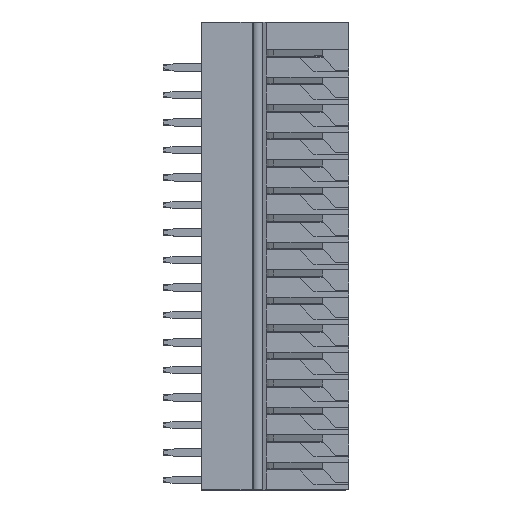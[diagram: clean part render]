
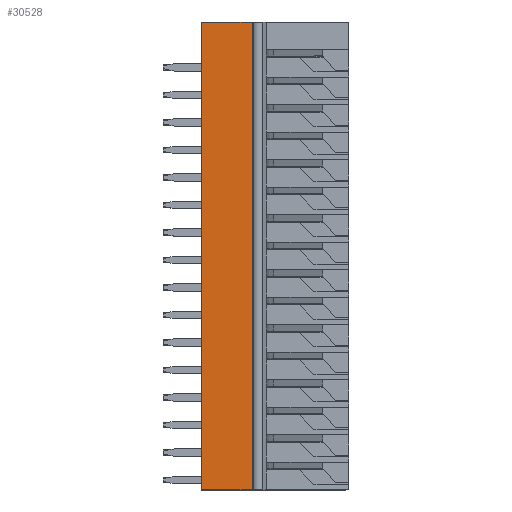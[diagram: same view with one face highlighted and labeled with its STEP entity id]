
A CAD part, top view. The second image highlights one B-rep face of the part: STEP entity #30528.
In plain terms, the highlighted planar face has unit normal (0, 0, 1).
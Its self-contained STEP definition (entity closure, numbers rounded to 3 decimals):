
#1312 = ORIENTED_EDGE ( 'NONE', *, *, #132945, .T. ) ;
#1314 = ORIENTED_EDGE ( 'NONE', *, *, #138196, .T. ) ;
#1315 = ORIENTED_EDGE ( 'NONE', *, *, #132950, .T. ) ;
#1317 = ORIENTED_EDGE ( 'NONE', *, *, #138197, .T. ) ;
#3592 = EDGE_LOOP ( 'NONE', ( #1312, #1314, #1315, #1317 ) ) ;
#12666 = CARTESIAN_POINT ( 'NONE',  ( 4.7, 2.54, -0.276 ) ) ;
#12667 = CARTESIAN_POINT ( 'NONE',  ( 0., -40.64, -0.276 ) ) ;
#12668 = CARTESIAN_POINT ( 'NONE',  ( 0., 2.54, -0.276 ) ) ;
#12883 = CARTESIAN_POINT ( 'NONE',  ( 4.7, -40.64, -0.276 ) ) ;
#30528 = ADVANCED_FACE ( 'NONE', ( #143824 ), #143811, .T. ) ;
#37583 = VERTEX_POINT ( 'NONE', #12666 ) ;
#37584 = VERTEX_POINT ( 'NONE', #12667 ) ;
#37585 = VERTEX_POINT ( 'NONE', #12668 ) ;
#37823 = VERTEX_POINT ( 'NONE', #12883 ) ;
#49302 = VECTOR ( 'NONE', #55696, 1000. ) ;
#49310 = VECTOR ( 'NONE', #55709, 1000. ) ;
#55665 = LINE ( 'NONE', #55692, #49302 ) ;
#55692 = CARTESIAN_POINT ( 'NONE',  ( 0., 1.27, -0.276 ) ) ;
#55696 = DIRECTION ( 'NONE',  ( 0., -1., 0. ) ) ;
#55704 = LINE ( 'NONE', #55707, #49310 ) ;
#55707 = CARTESIAN_POINT ( 'NONE',  ( 4.7, 1.27, -0.276 ) ) ;
#55709 = DIRECTION ( 'NONE',  ( 0., 1., 0. ) ) ;
#56915 = VECTOR ( 'NONE', #58508, 1000. ) ;
#56916 = VECTOR ( 'NONE', #58515, 1000. ) ;
#58503 = LINE ( 'NONE', #58506, #56915 ) ;
#58506 = CARTESIAN_POINT ( 'NONE',  ( 6.8, -40.64, -0.276 ) ) ;
#58508 = DIRECTION ( 'NONE',  ( 1., 0., 0. ) ) ;
#58510 = LINE ( 'NONE', #58513, #56916 ) ;
#58513 = CARTESIAN_POINT ( 'NONE',  ( 2.35, 2.54, -0.276 ) ) ;
#58515 = DIRECTION ( 'NONE',  ( -1., 0., 0. ) ) ;
#132945 = EDGE_CURVE ( 'NONE', #37585, #37584, #55665, .T. ) ;
#132950 = EDGE_CURVE ( 'NONE', #37823, #37583, #55704, .T. ) ;
#138196 = EDGE_CURVE ( 'NONE', #37584, #37823, #58503, .T. ) ;
#138197 = EDGE_CURVE ( 'NONE', #37583, #37585, #58510, .T. ) ;
#143811 = PLANE ( 'NONE',  #144640 ) ;
#143816 = CARTESIAN_POINT ( 'NONE',  ( 2.35, 1.27, -0.276 ) ) ;
#143824 = FACE_OUTER_BOUND ( 'NONE', #3592, .T. ) ;
#143829 = DIRECTION ( 'NONE',  ( 0., 0., 1. ) ) ;
#143831 = DIRECTION ( 'NONE',  ( 1., 0., 0. ) ) ;
#144640 = AXIS2_PLACEMENT_3D ( 'NONE', #143816, #143829, #143831 ) ;
